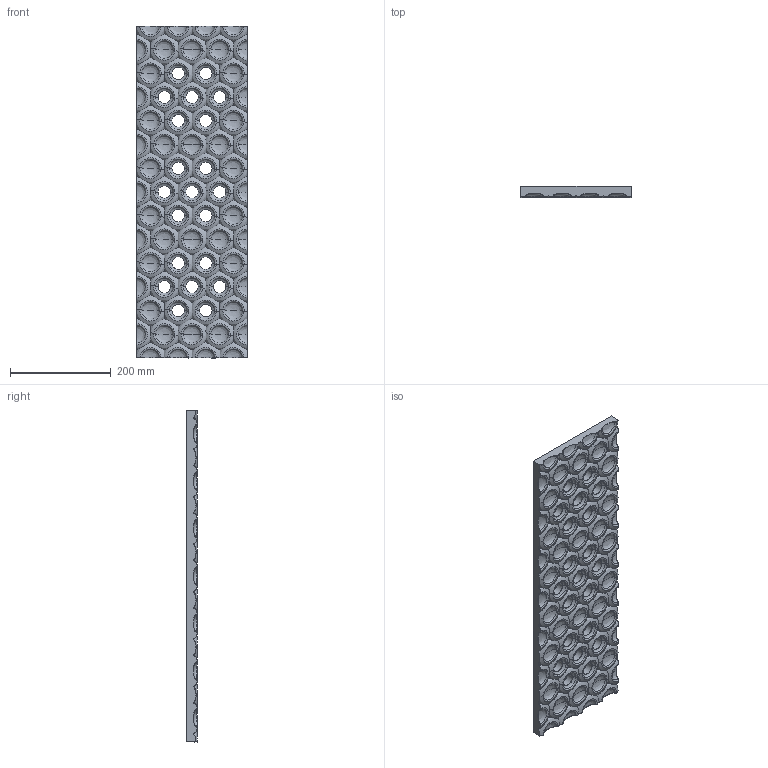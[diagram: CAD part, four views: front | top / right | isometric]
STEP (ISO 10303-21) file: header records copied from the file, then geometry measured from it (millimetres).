
FILE_DESCRIPTION(/* description */ (''),/* implementation_level */ '2;1');
FILE_NAME(/* name */ 'BO6601~2',/* time_stamp */ '2025-06-17T09:04:43+02:00',/* author */ (''),/* organization */ (''),/* preprocessor_version */ 'ST-DEVELOPER v15',/* originating_system */ '',/* authorisation */ '');
FILE_SCHEMA (('AUTOMOTIVE_DESIGN'));
Products named in the file (1): Document
Bounding box: 220 x 21.8 x 660 mm (x, y, z)
Surface area: 365862.7 mm2 (no closed solid volume)
Topology: 0 solids, 1 shells, 2151 faces, 6160 edges, 3466 vertices
Faces by surface type: bspline 2142, plane 9
Entity records: 394713 total; most frequent: CARTESIAN_POINT 364362, ORIENTED_EDGE 11305, EDGE_CURVE 5663, VERTEX_POINT 3466, B_SPLINE_CURVE_WITH_KNOTS 3163, EDGE_LOOP 2152, ADVANCED_FACE 2151, FACE_OUTER_BOUND 2151
